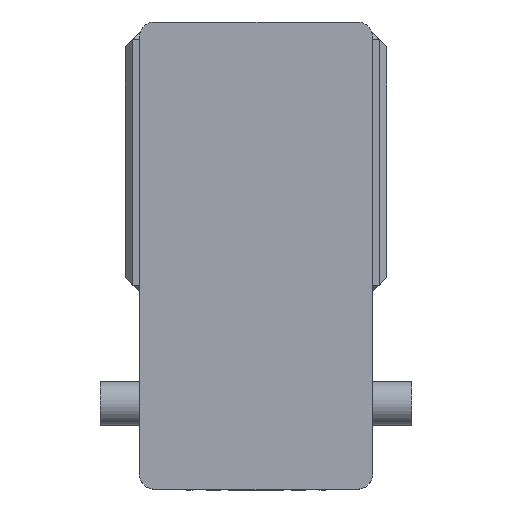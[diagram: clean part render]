
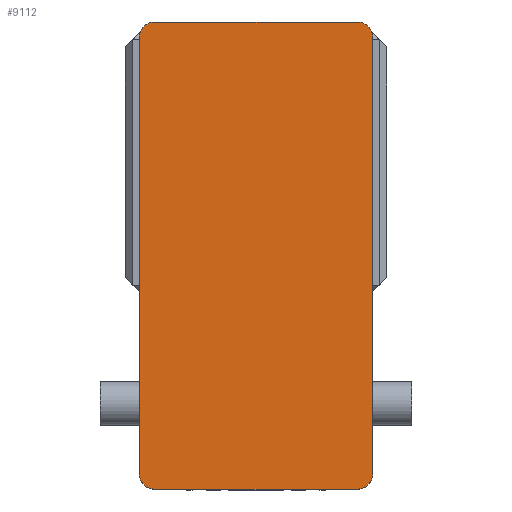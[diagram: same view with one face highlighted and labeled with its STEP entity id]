
A CAD part, left-side view. The second image highlights one B-rep face of the part: STEP entity #9112.
In plain terms, the highlighted planar face has unit normal (-1, 0, 0) as drawn and (0, 0, 1) by its records, which use the part's own axes.
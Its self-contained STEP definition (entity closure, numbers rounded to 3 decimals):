
#136 = CARTESIAN_POINT ( 'NONE',  ( 75., -140., 105. ) ) ;
#196 = AXIS2_PLACEMENT_3D ( 'NONE', #8766, #8755, #8747 ) ;
#226 = VERTEX_POINT ( 'NONE', #952 ) ;
#303 = EDGE_LOOP ( 'NONE', ( #5205, #10343, #10457, #3752, #5725, #4358, #1418, #8676 ) ) ;
#610 = DIRECTION ( 'NONE',  ( 1., 0., 0. ) ) ;
#623 = DIRECTION ( 'NONE',  ( 0., 0., 1. ) ) ;
#627 = CARTESIAN_POINT ( 'NONE',  ( -65., -140., 105. ) ) ;
#907 = VERTEX_POINT ( 'NONE', #136 ) ;
#952 = CARTESIAN_POINT ( 'NONE',  ( -75., 140., 105. ) ) ;
#1134 = DIRECTION ( 'NONE',  ( 0., -1., 0. ) ) ;
#1147 = CARTESIAN_POINT ( 'NONE',  ( -75., 150., 105. ) ) ;
#1319 = CIRCLE ( 'NONE', #196, 10. ) ;
#1418 = ORIENTED_EDGE ( 'NONE', *, *, #8528, .T. ) ;
#1514 = CIRCLE ( 'NONE', #6954, 10. ) ;
#1525 = CIRCLE ( 'NONE', #7025, 10. ) ;
#1670 = VERTEX_POINT ( 'NONE', #7155 ) ;
#2032 = VERTEX_POINT ( 'NONE', #9332 ) ;
#2173 = VERTEX_POINT ( 'NONE', #7412 ) ;
#2369 = VERTEX_POINT ( 'NONE', #4937 ) ;
#3380 = EDGE_CURVE ( 'NONE', #10657, #2173, #9205, .T. ) ;
#3752 = ORIENTED_EDGE ( 'NONE', *, *, #6920, .T. ) ;
#3946 = AXIS2_PLACEMENT_3D ( 'NONE', #8516, #8502, #8490 ) ;
#4358 = ORIENTED_EDGE ( 'NONE', *, *, #7038, .T. ) ;
#4849 = DIRECTION ( 'NONE',  ( -1., 0., 0. ) ) ;
#4857 = CARTESIAN_POINT ( 'NONE',  ( -75., 150., 105. ) ) ;
#4937 = CARTESIAN_POINT ( 'NONE',  ( -65., 150., 105. ) ) ;
#5028 = CARTESIAN_POINT ( 'NONE',  ( -65., -150., 105. ) ) ;
#5205 = ORIENTED_EDGE ( 'NONE', *, *, #3380, .T. ) ;
#5725 = ORIENTED_EDGE ( 'NONE', *, *, #7887, .T. ) ;
#6756 = VERTEX_POINT ( 'NONE', #10636 ) ;
#6920 = EDGE_CURVE ( 'NONE', #2032, #1670, #1525, .T. ) ;
#6926 = EDGE_CURVE ( 'NONE', #2173, #907, #1514, .T. ) ;
#6954 = AXIS2_PLACEMENT_3D ( 'NONE', #9324, #9315, #9288 ) ;
#7025 = AXIS2_PLACEMENT_3D ( 'NONE', #9423, #9415, #9401 ) ;
#7038 = EDGE_CURVE ( 'NONE', #2369, #226, #1319, .T. ) ;
#7155 = CARTESIAN_POINT ( 'NONE',  ( 65., 150., 105. ) ) ;
#7405 = VECTOR ( 'NONE', #7519, 1000. ) ;
#7410 = LINE ( 'NONE', #7569, #7405 ) ;
#7412 = CARTESIAN_POINT ( 'NONE',  ( 65., -150., 105. ) ) ;
#7431 = VECTOR ( 'NONE', #8809, 1000. ) ;
#7519 = DIRECTION ( 'NONE',  ( 0., 1., 0. ) ) ;
#7569 = CARTESIAN_POINT ( 'NONE',  ( 75., 150., 105. ) ) ;
#7662 = FACE_OUTER_BOUND ( 'NONE', #303, .T. ) ;
#7887 = EDGE_CURVE ( 'NONE', #1670, #2369, #10613, .T. ) ;
#8490 = DIRECTION ( 'NONE',  ( 1., 0., 0. ) ) ;
#8502 = DIRECTION ( 'NONE',  ( 0., 0., 1. ) ) ;
#8516 = CARTESIAN_POINT ( 'NONE',  ( 0., 0., 105. ) ) ;
#8528 = EDGE_CURVE ( 'NONE', #226, #6756, #8904, .T. ) ;
#8595 = EDGE_CURVE ( 'NONE', #6756, #10657, #8691, .T. ) ;
#8619 = PLANE ( 'NONE',  #3946 ) ;
#8676 = ORIENTED_EDGE ( 'NONE', *, *, #8595, .T. ) ;
#8691 = CIRCLE ( 'NONE', #9938, 10. ) ;
#8747 = DIRECTION ( 'NONE',  ( 1., 0., 0. ) ) ;
#8755 = DIRECTION ( 'NONE',  ( 0., 0., 1. ) ) ;
#8766 = CARTESIAN_POINT ( 'NONE',  ( -65., 140., 105. ) ) ;
#8780 = CARTESIAN_POINT ( 'NONE',  ( -75., -150., 105. ) ) ;
#8809 = DIRECTION ( 'NONE',  ( 1., 0., 0. ) ) ;
#8898 = VECTOR ( 'NONE', #1134, 1000. ) ;
#8904 = LINE ( 'NONE', #1147, #8898 ) ;
#9112 = ADVANCED_FACE ( 'NONE', ( #7662 ), #8619, .T. ) ;
#9205 = LINE ( 'NONE', #8780, #7431 ) ;
#9240 = EDGE_CURVE ( 'NONE', #907, #2032, #7410, .T. ) ;
#9288 = DIRECTION ( 'NONE',  ( 1., 0., 0. ) ) ;
#9315 = DIRECTION ( 'NONE',  ( 0., 0., 1. ) ) ;
#9324 = CARTESIAN_POINT ( 'NONE',  ( 65., -140., 105. ) ) ;
#9332 = CARTESIAN_POINT ( 'NONE',  ( 75., 140., 105. ) ) ;
#9401 = DIRECTION ( 'NONE',  ( 1., 0., 0. ) ) ;
#9415 = DIRECTION ( 'NONE',  ( 0., 0., 1. ) ) ;
#9423 = CARTESIAN_POINT ( 'NONE',  ( 65., 140., 105. ) ) ;
#9938 = AXIS2_PLACEMENT_3D ( 'NONE', #627, #623, #610 ) ;
#10343 = ORIENTED_EDGE ( 'NONE', *, *, #6926, .T. ) ;
#10457 = ORIENTED_EDGE ( 'NONE', *, *, #9240, .T. ) ;
#10552 = VECTOR ( 'NONE', #4849, 1000. ) ;
#10613 = LINE ( 'NONE', #4857, #10552 ) ;
#10636 = CARTESIAN_POINT ( 'NONE',  ( -75., -140., 105. ) ) ;
#10657 = VERTEX_POINT ( 'NONE', #5028 ) ;
